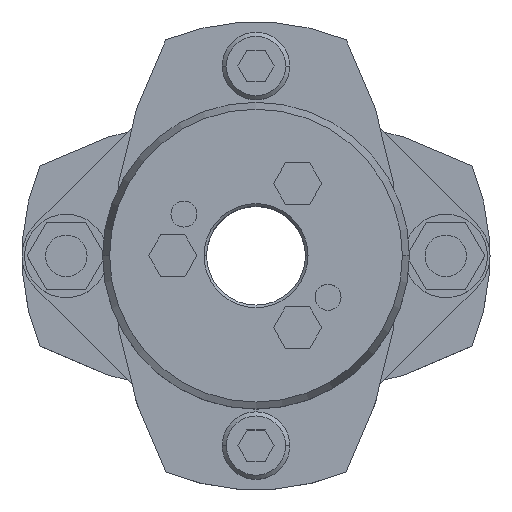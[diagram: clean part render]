
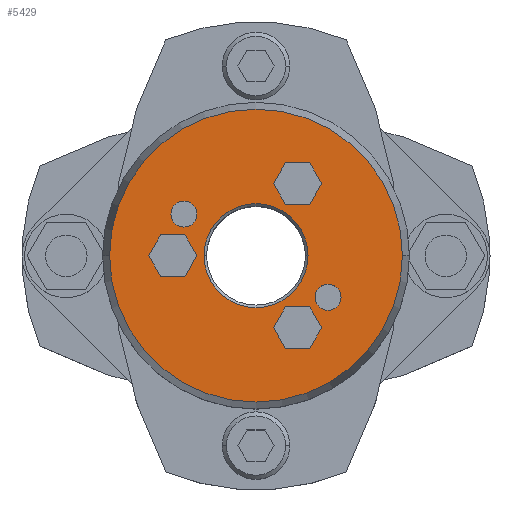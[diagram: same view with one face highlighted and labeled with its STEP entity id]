
A CAD part, top view. The second image highlights one B-rep face of the part: STEP entity #5429.
In plain terms, the highlighted planar face has unit normal (0, 0, 1).
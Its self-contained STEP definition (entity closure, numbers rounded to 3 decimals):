
#857=CARTESIAN_POINT('',(-10.,0.,39.25));
#858=VERTEX_POINT('',#857);
#874=CARTESIAN_POINT('',(10.,0.,39.25));
#875=VERTEX_POINT('',#874);
#882=CARTESIAN_POINT('',(0.,0.,39.25));
#883=DIRECTION('',(0.0,0.0,1.0));
#884=DIRECTION('',(-1.0,0.0,0.0));
#885=AXIS2_PLACEMENT_3D('',#882,#883,#884);
#886=CIRCLE('',#885,10.0);
#887=EDGE_CURVE('',#875,#858,#886,.T.);
#1045=CARTESIAN_POINT('',(28.16,0.,39.25));
#1046=VERTEX_POINT('',#1045);
#1053=CARTESIAN_POINT('',(-28.16,0.,39.25));
#1054=VERTEX_POINT('',#1053);
#1055=CARTESIAN_POINT('',(0.,0.,39.25));
#1056=DIRECTION('',(0.0,0.0,-1.0));
#1057=DIRECTION('',(1.0,0.0,0.0));
#1058=AXIS2_PLACEMENT_3D('',#1055,#1056,#1057);
#1059=CIRCLE('',#1058,28.16);
#1060=EDGE_CURVE('',#1046,#1054,#1059,.T.);
#1303=CARTESIAN_POINT('',(-16.356,8.,39.25));
#1304=VERTEX_POINT('',#1303);
#1320=CARTESIAN_POINT('',(-11.356,8.,39.25));
#1321=VERTEX_POINT('',#1320);
#1328=CARTESIAN_POINT('',(-13.856,8.,39.25));
#1329=DIRECTION('',(0.0,0.0,-1.0));
#1330=DIRECTION('',(-1.0,0.0,0.0));
#1331=AXIS2_PLACEMENT_3D('',#1328,#1329,#1330);
#1332=CIRCLE('',#1331,2.5);
#1333=EDGE_CURVE('',#1304,#1321,#1332,.T.);
#1345=CARTESIAN_POINT('',(11.356,-8.,39.25));
#1346=VERTEX_POINT('',#1345);
#1362=CARTESIAN_POINT('',(16.356,-8.,39.25));
#1363=VERTEX_POINT('',#1362);
#1370=CARTESIAN_POINT('',(13.856,-8.,39.25));
#1371=DIRECTION('',(0.0,0.0,-1.0));
#1372=DIRECTION('',(-1.0,0.0,0.0));
#1373=AXIS2_PLACEMENT_3D('',#1370,#1371,#1372);
#1374=CIRCLE('',#1373,2.5);
#1375=EDGE_CURVE('',#1346,#1363,#1374,.T.);
#3945=CARTESIAN_POINT('',(3.381,13.856,39.25));
#3946=VERTEX_POINT('',#3945);
#3953=CARTESIAN_POINT('',(5.691,9.856,39.25));
#3954=VERTEX_POINT('',#3953);
#3955=CARTESIAN_POINT('',(5.691,9.856,39.25));
#3956=DIRECTION('',(-0.5,0.866,0.0));
#3957=VECTOR('',#3956,4.619);
#3958=LINE('',#3955,#3957);
#3959=EDGE_CURVE('',#3954,#3946,#3958,.T.);
#3983=CARTESIAN_POINT('',(5.691,17.856,39.25));
#3984=VERTEX_POINT('',#3983);
#3991=CARTESIAN_POINT('',(3.381,13.856,39.25));
#3992=DIRECTION('',(0.5,0.866,0.0));
#3993=VECTOR('',#3992,4.619);
#3994=LINE('',#3991,#3993);
#3995=EDGE_CURVE('',#3946,#3984,#3994,.T.);
#4014=CARTESIAN_POINT('',(10.309,17.856,39.25));
#4015=VERTEX_POINT('',#4014);
#4022=CARTESIAN_POINT('',(5.691,17.856,39.25));
#4023=DIRECTION('',(1.0,0.0,0.0));
#4024=VECTOR('',#4023,4.619);
#4025=LINE('',#4022,#4024);
#4026=EDGE_CURVE('',#3984,#4015,#4025,.T.);
#4045=CARTESIAN_POINT('',(12.619,13.856,39.25));
#4046=VERTEX_POINT('',#4045);
#4053=CARTESIAN_POINT('',(10.309,17.856,39.25));
#4054=DIRECTION('',(0.5,-0.866,0.0));
#4055=VECTOR('',#4054,4.619);
#4056=LINE('',#4053,#4055);
#4057=EDGE_CURVE('',#4015,#4046,#4056,.T.);
#4076=CARTESIAN_POINT('',(10.309,9.856,39.25));
#4077=VERTEX_POINT('',#4076);
#4084=CARTESIAN_POINT('',(12.619,13.856,39.25));
#4085=DIRECTION('',(-0.5,-0.866,0.0));
#4086=VECTOR('',#4085,4.619);
#4087=LINE('',#4084,#4086);
#4088=EDGE_CURVE('',#4046,#4077,#4087,.T.);
#4106=CARTESIAN_POINT('',(10.309,9.856,39.25));
#4107=DIRECTION('',(-1.0,0.0,0.0));
#4108=VECTOR('',#4107,4.619);
#4109=LINE('',#4106,#4108);
#4110=EDGE_CURVE('',#4077,#3954,#4109,.T.);
#4145=CARTESIAN_POINT('',(-20.619,0.,39.25));
#4146=VERTEX_POINT('',#4145);
#4153=CARTESIAN_POINT('',(-18.309,-4.,39.25));
#4154=VERTEX_POINT('',#4153);
#4155=CARTESIAN_POINT('',(-18.309,-4.,39.25));
#4156=DIRECTION('',(-0.5,0.866,0.0));
#4157=VECTOR('',#4156,4.619);
#4158=LINE('',#4155,#4157);
#4159=EDGE_CURVE('',#4154,#4146,#4158,.T.);
#4183=CARTESIAN_POINT('',(-18.309,4.,39.25));
#4184=VERTEX_POINT('',#4183);
#4191=CARTESIAN_POINT('',(-20.619,0.,39.25));
#4192=DIRECTION('',(0.5,0.866,0.0));
#4193=VECTOR('',#4192,4.619);
#4194=LINE('',#4191,#4193);
#4195=EDGE_CURVE('',#4146,#4184,#4194,.T.);
#4214=CARTESIAN_POINT('',(-13.691,4.,39.25));
#4215=VERTEX_POINT('',#4214);
#4222=CARTESIAN_POINT('',(-18.309,4.,39.25));
#4223=DIRECTION('',(1.0,0.0,0.0));
#4224=VECTOR('',#4223,4.619);
#4225=LINE('',#4222,#4224);
#4226=EDGE_CURVE('',#4184,#4215,#4225,.T.);
#4245=CARTESIAN_POINT('',(-11.381,0.,39.25));
#4246=VERTEX_POINT('',#4245);
#4253=CARTESIAN_POINT('',(-13.691,4.,39.25));
#4254=DIRECTION('',(0.5,-0.866,0.0));
#4255=VECTOR('',#4254,4.619);
#4256=LINE('',#4253,#4255);
#4257=EDGE_CURVE('',#4215,#4246,#4256,.T.);
#4276=CARTESIAN_POINT('',(-13.691,-4.,39.25));
#4277=VERTEX_POINT('',#4276);
#4284=CARTESIAN_POINT('',(-11.381,0.,39.25));
#4285=DIRECTION('',(-0.5,-0.866,0.0));
#4286=VECTOR('',#4285,4.619);
#4287=LINE('',#4284,#4286);
#4288=EDGE_CURVE('',#4246,#4277,#4287,.T.);
#4306=CARTESIAN_POINT('',(-13.691,-4.,39.25));
#4307=DIRECTION('',(-1.0,0.0,0.0));
#4308=VECTOR('',#4307,4.619);
#4309=LINE('',#4306,#4308);
#4310=EDGE_CURVE('',#4277,#4154,#4309,.T.);
#4345=CARTESIAN_POINT('',(3.381,-13.856,39.25));
#4346=VERTEX_POINT('',#4345);
#4353=CARTESIAN_POINT('',(5.691,-17.856,39.25));
#4354=VERTEX_POINT('',#4353);
#4355=CARTESIAN_POINT('',(5.691,-17.856,39.25));
#4356=DIRECTION('',(-0.5,0.866,0.0));
#4357=VECTOR('',#4356,4.619);
#4358=LINE('',#4355,#4357);
#4359=EDGE_CURVE('',#4354,#4346,#4358,.T.);
#4383=CARTESIAN_POINT('',(5.691,-9.856,39.25));
#4384=VERTEX_POINT('',#4383);
#4391=CARTESIAN_POINT('',(3.381,-13.856,39.25));
#4392=DIRECTION('',(0.5,0.866,0.0));
#4393=VECTOR('',#4392,4.619);
#4394=LINE('',#4391,#4393);
#4395=EDGE_CURVE('',#4346,#4384,#4394,.T.);
#4414=CARTESIAN_POINT('',(10.309,-9.856,39.25));
#4415=VERTEX_POINT('',#4414);
#4422=CARTESIAN_POINT('',(5.691,-9.856,39.25));
#4423=DIRECTION('',(1.0,0.0,0.0));
#4424=VECTOR('',#4423,4.619);
#4425=LINE('',#4422,#4424);
#4426=EDGE_CURVE('',#4384,#4415,#4425,.T.);
#4445=CARTESIAN_POINT('',(12.619,-13.856,39.25));
#4446=VERTEX_POINT('',#4445);
#4453=CARTESIAN_POINT('',(10.309,-9.856,39.25));
#4454=DIRECTION('',(0.5,-0.866,0.0));
#4455=VECTOR('',#4454,4.619);
#4456=LINE('',#4453,#4455);
#4457=EDGE_CURVE('',#4415,#4446,#4456,.T.);
#4476=CARTESIAN_POINT('',(10.309,-17.856,39.25));
#4477=VERTEX_POINT('',#4476);
#4484=CARTESIAN_POINT('',(12.619,-13.856,39.25));
#4485=DIRECTION('',(-0.5,-0.866,0.0));
#4486=VECTOR('',#4485,4.619);
#4487=LINE('',#4484,#4486);
#4488=EDGE_CURVE('',#4446,#4477,#4487,.T.);
#4506=CARTESIAN_POINT('',(10.309,-17.856,39.25));
#4507=DIRECTION('',(-1.0,0.0,0.0));
#4508=VECTOR('',#4507,4.619);
#4509=LINE('',#4506,#4508);
#4510=EDGE_CURVE('',#4477,#4354,#4509,.T.);
#4536=CARTESIAN_POINT('',(13.856,-8.,39.25));
#4537=DIRECTION('',(0.0,0.0,-1.0));
#4538=DIRECTION('',(-1.0,0.0,0.0));
#4539=AXIS2_PLACEMENT_3D('',#4536,#4537,#4538);
#4540=CIRCLE('',#4539,2.5);
#4541=EDGE_CURVE('',#1363,#1346,#4540,.T.);
#4570=CARTESIAN_POINT('',(-13.856,8.,39.25));
#4571=DIRECTION('',(0.0,0.0,-1.0));
#4572=DIRECTION('',(-1.0,0.0,0.0));
#4573=AXIS2_PLACEMENT_3D('',#4570,#4571,#4572);
#4574=CIRCLE('',#4573,2.5);
#4575=EDGE_CURVE('',#1321,#1304,#4574,.T.);
#5368=CARTESIAN_POINT('',(0.,0.,39.25));
#5369=DIRECTION('',(0.0,0.0,-1.0));
#5370=DIRECTION('',(1.0,0.0,0.0));
#5371=AXIS2_PLACEMENT_3D('',#5368,#5369,#5370);
#5372=CIRCLE('',#5371,28.16);
#5373=EDGE_CURVE('',#1054,#1046,#5372,.T.);
#5378=CARTESIAN_POINT('',(-2.682,0.,39.25));
#5379=DIRECTION('',(0.0,0.0,1.0));
#5380=DIRECTION('',(-1.0,0.0,0.0));
#5381=AXIS2_PLACEMENT_3D('',#5378,#5379,#5380);
#5382=PLANE('',#5381);
#5383=ORIENTED_EDGE('',*,*,#5373,.F.);
#5384=ORIENTED_EDGE('',*,*,#1060,.F.);
#5385=EDGE_LOOP('',(#5383,#5384));
#5386=FACE_OUTER_BOUND('',#5385,.T.);
#5387=ORIENTED_EDGE('',*,*,#3959,.T.);
#5388=ORIENTED_EDGE('',*,*,#3995,.T.);
#5389=ORIENTED_EDGE('',*,*,#4026,.T.);
#5390=ORIENTED_EDGE('',*,*,#4057,.T.);
#5391=ORIENTED_EDGE('',*,*,#4088,.T.);
#5392=ORIENTED_EDGE('',*,*,#4110,.T.);
#5393=EDGE_LOOP('',(#5387,#5388,#5389,#5390,#5391,#5392));
#5394=FACE_BOUND('',#5393,.T.);
#5395=ORIENTED_EDGE('',*,*,#4159,.T.);
#5396=ORIENTED_EDGE('',*,*,#4195,.T.);
#5397=ORIENTED_EDGE('',*,*,#4226,.T.);
#5398=ORIENTED_EDGE('',*,*,#4257,.T.);
#5399=ORIENTED_EDGE('',*,*,#4288,.T.);
#5400=ORIENTED_EDGE('',*,*,#4310,.T.);
#5401=EDGE_LOOP('',(#5395,#5396,#5397,#5398,#5399,#5400));
#5402=FACE_BOUND('',#5401,.T.);
#5403=ORIENTED_EDGE('',*,*,#4359,.T.);
#5404=ORIENTED_EDGE('',*,*,#4395,.T.);
#5405=ORIENTED_EDGE('',*,*,#4426,.T.);
#5406=ORIENTED_EDGE('',*,*,#4457,.T.);
#5407=ORIENTED_EDGE('',*,*,#4488,.T.);
#5408=ORIENTED_EDGE('',*,*,#4510,.T.);
#5409=EDGE_LOOP('',(#5403,#5404,#5405,#5406,#5407,#5408));
#5410=FACE_BOUND('',#5409,.T.);
#5411=ORIENTED_EDGE('',*,*,#1375,.T.);
#5412=ORIENTED_EDGE('',*,*,#4541,.T.);
#5413=EDGE_LOOP('',(#5411,#5412));
#5414=FACE_BOUND('',#5413,.T.);
#5415=ORIENTED_EDGE('',*,*,#1333,.T.);
#5416=ORIENTED_EDGE('',*,*,#4575,.T.);
#5417=EDGE_LOOP('',(#5415,#5416));
#5418=FACE_BOUND('',#5417,.T.);
#5419=ORIENTED_EDGE('',*,*,#887,.F.);
#5420=CARTESIAN_POINT('',(0.,0.,39.25));
#5421=DIRECTION('',(0.0,0.0,1.0));
#5422=DIRECTION('',(-1.0,0.0,0.0));
#5423=AXIS2_PLACEMENT_3D('',#5420,#5421,#5422);
#5424=CIRCLE('',#5423,10.0);
#5425=EDGE_CURVE('',#858,#875,#5424,.T.);
#5426=ORIENTED_EDGE('',*,*,#5425,.F.);
#5427=EDGE_LOOP('',(#5419,#5426));
#5428=FACE_BOUND('',#5427,.T.);
#5429=ADVANCED_FACE('',(#5386,#5394,#5402,#5410,#5414,#5418,#5428),#5382,.T.);
